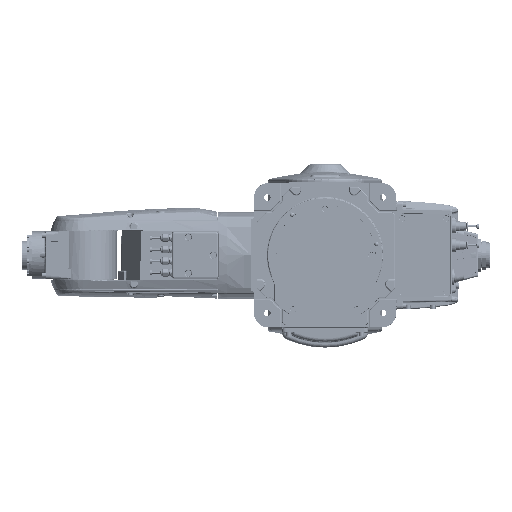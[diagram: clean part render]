
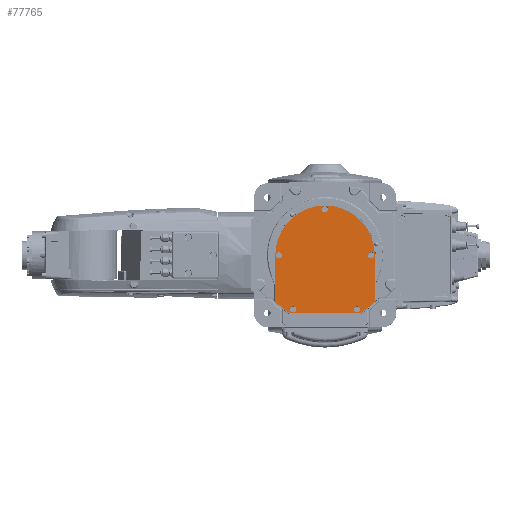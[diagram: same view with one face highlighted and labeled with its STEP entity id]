
A CAD part, front view. The second image highlights one B-rep face of the part: STEP entity #77765.
In plain terms, the highlighted planar face has unit normal (0, -1, 0).
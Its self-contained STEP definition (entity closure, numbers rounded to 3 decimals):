
#29576=DIRECTION('',(0.,0.,1.));
#29577=VECTOR('',#29576,63.836);
#29578=CARTESIAN_POINT('',(69.,1.2,-63.836));
#29579=LINE('',#29578,#29577);
#29592=DIRECTION('',(1.,0.,0.));
#29593=VECTOR('',#29592,98.712);
#29594=CARTESIAN_POINT('',(-49.356,1.2,-80.));
#29595=LINE('',#29594,#29593);
#29608=DIRECTION('',(0.,0.,-1.));
#29609=VECTOR('',#29608,63.836);
#29610=CARTESIAN_POINT('',(-69.,1.2,0.));
#29611=LINE('',#29610,#29609);
#29612=CARTESIAN_POINT('',(0.,1.2,0.));
#29613=DIRECTION('',(0.,1.,0.));
#29614=DIRECTION('',(-1.,0.,0.));
#29615=AXIS2_PLACEMENT_3D('',#29612,#29613,#29614);
#29617=CARTESIAN_POINT('',(0.,1.2,0.));
#29618=DIRECTION('',(0.,1.,0.));
#29619=DIRECTION('',(0.734,0.,-0.679));
#29620=AXIS2_PLACEMENT_3D('',#29617,#29618,#29619);
#29622=CARTESIAN_POINT('',(0.,1.2,0.));
#29623=DIRECTION('',(0.,1.,0.));
#29624=DIRECTION('',(-0.525,0.,-0.851));
#29625=AXIS2_PLACEMENT_3D('',#29622,#29623,#29624);
#29627=CARTESIAN_POINT('',(-64.,1.2,0.));
#29628=DIRECTION('',(0.,-1.,0.));
#29629=DIRECTION('',(-1.,0.,0.));
#29630=AXIS2_PLACEMENT_3D('',#29627,#29628,#29629);
#29632=CARTESIAN_POINT('',(-64.,1.2,0.));
#29633=DIRECTION('',(0.,-1.,0.));
#29634=DIRECTION('',(1.,0.,0.));
#29635=AXIS2_PLACEMENT_3D('',#29632,#29633,#29634);
#29637=CARTESIAN_POINT('',(0.,1.2,64.));
#29638=DIRECTION('',(0.,-1.,0.));
#29639=DIRECTION('',(0.,0.,1.));
#29640=AXIS2_PLACEMENT_3D('',#29637,#29638,#29639);
#29642=CARTESIAN_POINT('',(0.,1.2,64.));
#29643=DIRECTION('',(0.,-1.,0.));
#29644=DIRECTION('',(0.,0.,-1.));
#29645=AXIS2_PLACEMENT_3D('',#29642,#29643,#29644);
#29647=CARTESIAN_POINT('',(64.,1.2,0.));
#29648=DIRECTION('',(0.,-1.,0.));
#29649=DIRECTION('',(1.,0.,0.));
#29650=AXIS2_PLACEMENT_3D('',#29647,#29648,#29649);
#29652=CARTESIAN_POINT('',(64.,1.2,0.));
#29653=DIRECTION('',(0.,-1.,0.));
#29654=DIRECTION('',(-1.,0.,0.));
#29655=AXIS2_PLACEMENT_3D('',#29652,#29653,#29654);
#29657=CARTESIAN_POINT('',(-44.,1.2,-75.));
#29658=DIRECTION('',(0.,-1.,0.));
#29659=DIRECTION('',(-1.,0.,0.));
#29660=AXIS2_PLACEMENT_3D('',#29657,#29658,#29659);
#29662=CARTESIAN_POINT('',(-44.,1.2,-75.));
#29663=DIRECTION('',(0.,-1.,0.));
#29664=DIRECTION('',(1.,0.,0.));
#29665=AXIS2_PLACEMENT_3D('',#29662,#29663,#29664);
#29667=CARTESIAN_POINT('',(44.,1.2,-75.));
#29668=DIRECTION('',(0.,-1.,0.));
#29669=DIRECTION('',(-1.,0.,0.));
#29670=AXIS2_PLACEMENT_3D('',#29667,#29668,#29669);
#29672=CARTESIAN_POINT('',(44.,1.2,-75.));
#29673=DIRECTION('',(0.,-1.,0.));
#29674=DIRECTION('',(1.,0.,0.));
#29675=AXIS2_PLACEMENT_3D('',#29672,#29673,#29674);
#34233=CARTESIAN_POINT('',(69.,1.2,0.));
#34234=VERTEX_POINT('',#34233);
#34235=CARTESIAN_POINT('',(-69.,1.2,0.));
#34236=VERTEX_POINT('',#34235);
#34237=CARTESIAN_POINT('',(69.,1.2,-63.836));
#34238=VERTEX_POINT('',#34237);
#34239=CARTESIAN_POINT('',(49.356,1.2,-80.));
#34240=VERTEX_POINT('',#34239);
#34241=CARTESIAN_POINT('',(-49.356,1.2,-80.));
#34242=VERTEX_POINT('',#34241);
#34243=CARTESIAN_POINT('',(-69.,1.2,-63.836));
#34244=VERTEX_POINT('',#34243);
#34245=CARTESIAN_POINT('',(-68.3,1.2,0.));
#34246=CARTESIAN_POINT('',(-59.7,1.2,0.));
#34247=VERTEX_POINT('',#34245);
#34248=VERTEX_POINT('',#34246);
#34249=CARTESIAN_POINT('',(0.,1.2,68.3));
#34250=CARTESIAN_POINT('',(0.,1.2,59.7));
#34251=VERTEX_POINT('',#34249);
#34252=VERTEX_POINT('',#34250);
#34253=CARTESIAN_POINT('',(68.3,1.2,0.));
#34254=CARTESIAN_POINT('',(59.7,1.2,0.));
#34255=VERTEX_POINT('',#34253);
#34256=VERTEX_POINT('',#34254);
#34257=CARTESIAN_POINT('',(-48.3,1.2,-75.));
#34258=CARTESIAN_POINT('',(-39.7,1.2,-75.));
#34259=VERTEX_POINT('',#34257);
#34260=VERTEX_POINT('',#34258);
#34261=CARTESIAN_POINT('',(39.7,1.2,-75.));
#34262=CARTESIAN_POINT('',(48.3,1.2,-75.));
#34263=VERTEX_POINT('',#34261);
#34264=VERTEX_POINT('',#34262);
#77722=CARTESIAN_POINT('',(0.,1.2,-5.499));
#77723=DIRECTION('',(0.,1.,0.));
#77724=DIRECTION('',(1.,0.,0.));
#77725=AXIS2_PLACEMENT_3D('',#77722,#77723,#77724);
#77726=PLANE('',#77725);
#77727=ORIENTED_EDGE('',*,*,#77646,.T.);
#77728=ORIENTED_EDGE('',*,*,#77661,.F.);
#77729=ORIENTED_EDGE('',*,*,#77675,.T.);
#77730=ORIENTED_EDGE('',*,*,#77689,.F.);
#77731=ORIENTED_EDGE('',*,*,#77703,.T.);
#77732=ORIENTED_EDGE('',*,*,#77716,.F.);
#77733=EDGE_LOOP('',(#77727,#77728,#77729,#77730,#77731,#77732));
#77734=FACE_OUTER_BOUND('',#77733,.F.);
#77736=ORIENTED_EDGE('',*,*,#77735,.T.);
#77738=ORIENTED_EDGE('',*,*,#77737,.T.);
#77739=EDGE_LOOP('',(#77736,#77738));
#77740=FACE_BOUND('',#77739,.F.);
#77742=ORIENTED_EDGE('',*,*,#77741,.T.);
#77744=ORIENTED_EDGE('',*,*,#77743,.T.);
#77745=EDGE_LOOP('',(#77742,#77744));
#77746=FACE_BOUND('',#77745,.F.);
#77748=ORIENTED_EDGE('',*,*,#77747,.T.);
#77750=ORIENTED_EDGE('',*,*,#77749,.T.);
#77751=EDGE_LOOP('',(#77748,#77750));
#77752=FACE_BOUND('',#77751,.F.);
#77754=ORIENTED_EDGE('',*,*,#77753,.T.);
#77756=ORIENTED_EDGE('',*,*,#77755,.T.);
#77757=EDGE_LOOP('',(#77754,#77756));
#77758=FACE_BOUND('',#77757,.F.);
#77760=ORIENTED_EDGE('',*,*,#77759,.T.);
#77762=ORIENTED_EDGE('',*,*,#77761,.T.);
#77763=EDGE_LOOP('',(#77760,#77762));
#77764=FACE_BOUND('',#77763,.F.);
#77765=ADVANCED_FACE('',(#77734,#77740,#77746,#77752,#77758,#77764),#77726,.F.);
#29616=CIRCLE('',#29615,69.);
#29621=CIRCLE('',#29620,94.);
#29626=CIRCLE('',#29625,94.);
#29631=CIRCLE('',#29630,4.3);
#29636=CIRCLE('',#29635,4.3);
#29641=CIRCLE('',#29640,4.3);
#29646=CIRCLE('',#29645,4.3);
#29651=CIRCLE('',#29650,4.3);
#29656=CIRCLE('',#29655,4.3);
#29661=CIRCLE('',#29660,4.3);
#29666=CIRCLE('',#29665,4.3);
#29671=CIRCLE('',#29670,4.3);
#29676=CIRCLE('',#29675,4.3);
#77646=EDGE_CURVE('',#34236,#34234,#29616,.T.);
#77661=EDGE_CURVE('',#34238,#34234,#29579,.T.);
#77675=EDGE_CURVE('',#34238,#34240,#29621,.T.);
#77689=EDGE_CURVE('',#34242,#34240,#29595,.T.);
#77703=EDGE_CURVE('',#34242,#34244,#29626,.T.);
#77716=EDGE_CURVE('',#34236,#34244,#29611,.T.);
#77735=EDGE_CURVE('',#34247,#34248,#29631,.T.);
#77737=EDGE_CURVE('',#34248,#34247,#29636,.T.);
#77741=EDGE_CURVE('',#34251,#34252,#29641,.T.);
#77743=EDGE_CURVE('',#34252,#34251,#29646,.T.);
#77747=EDGE_CURVE('',#34255,#34256,#29651,.T.);
#77749=EDGE_CURVE('',#34256,#34255,#29656,.T.);
#77753=EDGE_CURVE('',#34259,#34260,#29661,.T.);
#77755=EDGE_CURVE('',#34260,#34259,#29666,.T.);
#77759=EDGE_CURVE('',#34263,#34264,#29671,.T.);
#77761=EDGE_CURVE('',#34264,#34263,#29676,.T.);
